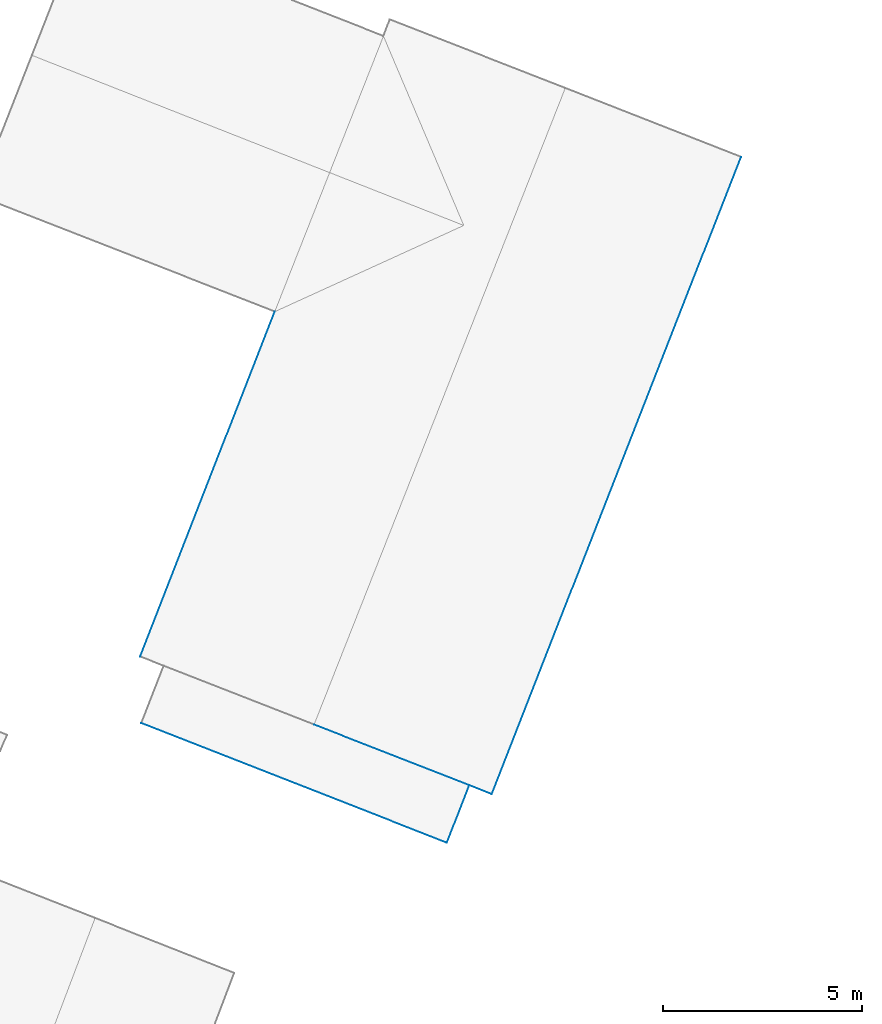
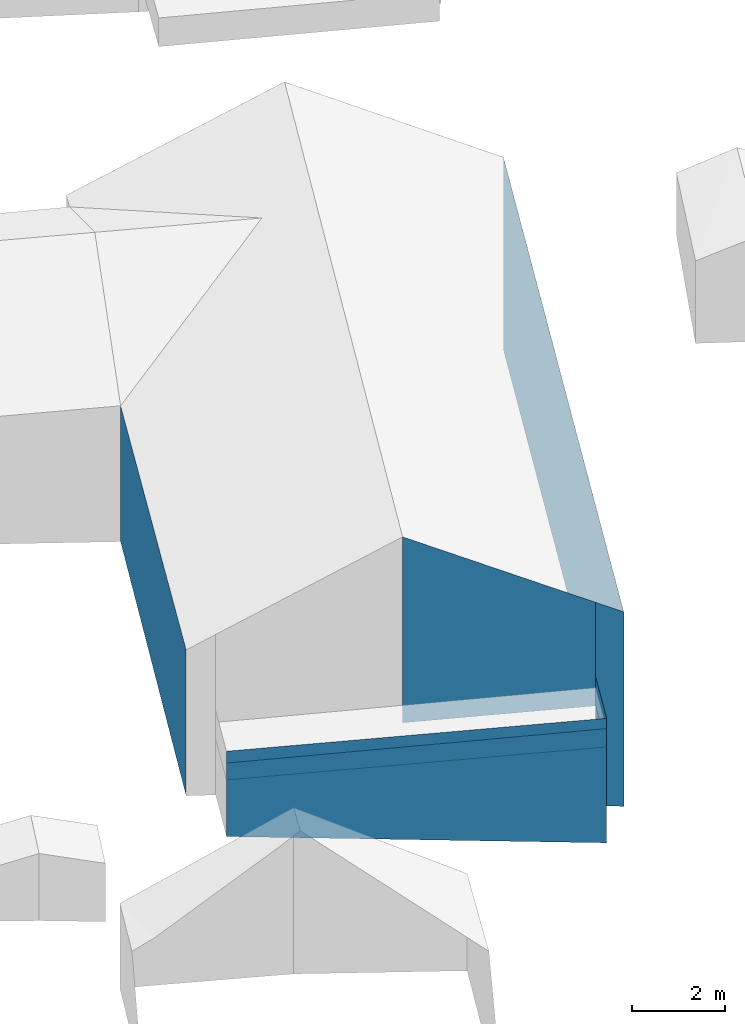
# Not in any storey, part 34 of 57: 12 walls.
"""IFC4 building model written with IfcOpenShell, lengths in metres."""

from ifc_helpers import new_model, entity, si_unit, converted_unit, frame, origin, place, context, subcontext, project, spatial, face_set, surface_model, element, save


model = new_model("IFC4")

# Units and contexts
model_context = context("Model", 3, precision=1e-05, world=origin())
body_context = subcontext(model_context, "Body", "Model", "MODEL_VIEW")
ifc_project = project(units=[converted_unit("PLANEANGLEUNIT", "DEGREE", entity("IfcRatioMeasure", 0.0174532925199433), si_unit("PLANEANGLEUNIT", "RADIAN"), dimensions=[0, 0, 0, 0, 0, 0, 0]), si_unit("AREAUNIT", "SQUARE_METRE"), si_unit("LENGTHUNIT", "METRE")], contexts=[model_context])

# Site, building
site_placement = place(None, origin())
site = spatial("IfcSite", under=ifc_project, at=site_placement, Name="_site")
building_placement = place(site_placement, origin())
building = spatial("IfcBuilding", under=site, at=building_placement, Name="_building")

# Walls
wall_1_placement = place(building_placement, origin())
element("IfcWall", 1, at=wall_1_placement, inside=building, Name="Wall", PredefinedType="NOTDEFINED", context=body_context, shape_type="SurfaceModel", body=[
    surface_model("IfcFaceBasedSurfaceModel", [(280.605, 103.251, 109.15), (272.921, 106.262, 109.11), (272.921, 106.262, 107.187), (280.605, 103.251, 106.157)], [face_set([[[0, 1, 2, 3]]])]),
])
wall_2_placement = place(building_placement, origin())
element("IfcWall", 2, at=wall_2_placement, inside=building, Name="Wall", PredefinedType="NOTDEFINED", context=body_context, shape_type="SurfaceModel", body=[
    surface_model("IfcFaceBasedSurfaceModel", [(281.169, 104.699, 108.67), (280.605, 103.251, 108.67), (280.605, 103.251, 106.157), (281.169, 104.699, 106.053)], [face_set([[[0, 1, 2, 3]]])]),
])
wall_3_placement = place(building_placement, origin())
element("IfcWall", 3, at=wall_3_placement, inside=building, Name="Wall", PredefinedType="NOTDEFINED", context=body_context, shape_type="SurfaceModel", body=[
    surface_model("IfcFaceBasedSurfaceModel", [(280.605, 103.251, 108.67), (272.921, 106.262, 108.67), (272.921, 106.262, 107.187), (280.605, 103.251, 106.157)], [face_set([[[0, 1, 2, 3]]])]),
])
wall_4_placement = place(building_placement, origin())
element("IfcWall", 4, at=wall_4_placement, inside=building, Name="Wall", PredefinedType="NOTDEFINED", context=body_context, shape_type="SurfaceModel", body=[
    surface_model("IfcFaceBasedSurfaceModel", [(281.734, 104.475, 111.07), (281.169, 104.699, 111.38), (281.169, 104.699, 106.053), (281.734, 104.475, 105.976)], [face_set([[[0, 1, 2, 3]]])]),
])
wall_5_placement = place(building_placement, origin())
element("IfcWall", 5, at=wall_5_placement, inside=building, Name="Wall", PredefinedType="NOTDEFINED", context=body_context, shape_type="SurfaceModel", body=[
    surface_model("IfcFaceBasedSurfaceModel", [(288.003, 120.498, 111.07), (281.734, 104.475, 111.07), (281.734, 104.475, 105.976), (288.003, 120.498, 106.02)], [face_set([[[0, 1, 2, 3]]])]),
])
wall_6_placement = place(building_placement, origin())
element("IfcWall", 6, at=wall_6_placement, inside=building, Name="Wall", PredefinedType="NOTDEFINED", context=body_context, shape_type="SurfaceModel", body=[
    surface_model("IfcFaceBasedSurfaceModel", [(272.89, 107.934, 111.07), (276.275, 116.611, 111.02), (276.275, 116.611, 107.461), (272.89, 107.934, 107.25)], [face_set([[[0, 1, 2, 3]]])]),
])
wall_7_placement = place(building_placement, origin())
element("IfcWall", 7, at=wall_7_placement, inside=building, Name="Wall", PredefinedType="NOTDEFINED", context=body_context, shape_type="SurfaceModel", body=[
    surface_model("IfcFaceBasedSurfaceModel", [(281.169, 104.699, 109.15), (280.605, 103.251, 109.15), (280.605, 103.251, 106.157), (281.169, 104.699, 106.053)], [face_set([[[0, 1, 2, 3]]])]),
])
wall_8_placement = place(building_placement, origin())
element("IfcWall", 8, at=wall_8_placement, inside=building, Name="Wall", PredefinedType="NOTDEFINED", context=body_context, shape_type="SurfaceModel", body=[
    surface_model("IfcFaceBasedSurfaceModel", [(281.169, 104.699, 111.38), (277.263, 106.222, 113.54), (277.263, 106.222, 108.67), (281.169, 104.699, 108.67)], [face_set([[[0, 1, 2, 3]]])]),
])
wall_9_placement = place(building_placement, origin())
element("IfcWall", 9, at=wall_9_placement, inside=building, Name="Wall", PredefinedType="NOTDEFINED", context=body_context, shape_type="SurfaceModel", body=[
    surface_model("IfcFaceBasedSurfaceModel", [(280.605, 103.251, 108.67), (272.921, 106.262, 108.67), (272.921, 106.262, 109.42), (280.605, 103.251, 109.42)], [face_set([[[0, 1, 2, 3]]])]),
])
for number, where, name in (
    (10, (0.0, 0.0, 0.0), "Wall"),
    (11, (0.0, 0.0, 0.0), "Wall"),
):
    element("IfcWall", number, at=place(building_placement, frame(where)), inside=building, Name=name, PredefinedType="NOTDEFINED", context=body_context, shape_type="SurfaceModel", body=[
        surface_model("IfcFaceBasedSurfaceModel", [(281.169, 104.699, 108.67), (280.605, 103.251, 108.67), (280.605, 103.251, 109.42), (281.169, 104.699, 109.42)], [face_set([[[0, 1, 2, 3]]])]),
    ])
wall_10_placement = place(building_placement, origin())
element("IfcWall", 12, at=wall_10_placement, inside=building, Name="Wall", PredefinedType="NOTDEFINED", context=body_context, shape_type="SurfaceModel", body=[
    surface_model("IfcFaceBasedSurfaceModel", [(280.605, 103.251, 108.67), (272.921, 106.262, 108.67), (272.921, 106.262, 109.42), (280.605, 103.251, 109.42)], [face_set([[[0, 1, 2, 3]]])]),
])

save(model, "model.ifc")
